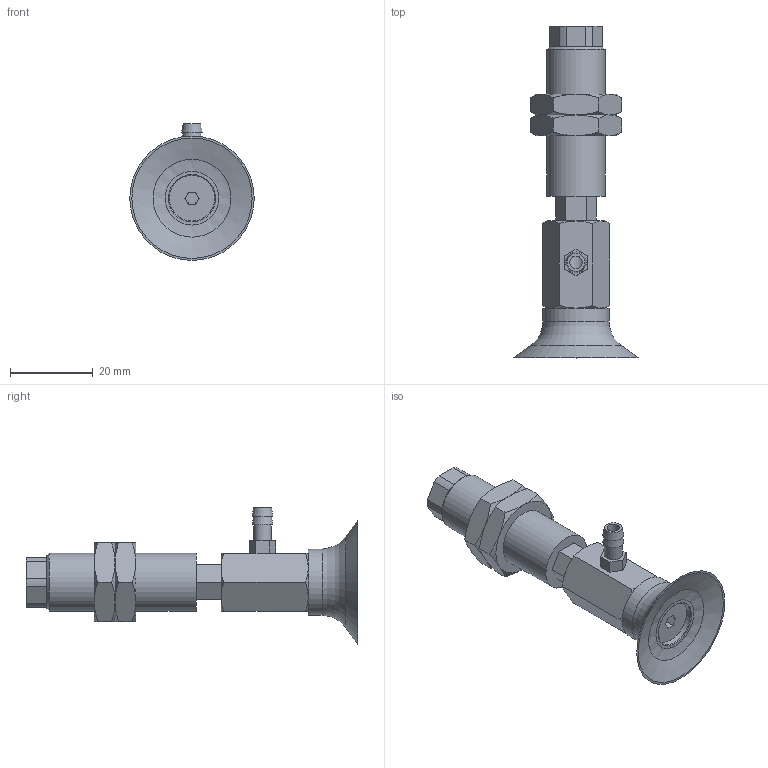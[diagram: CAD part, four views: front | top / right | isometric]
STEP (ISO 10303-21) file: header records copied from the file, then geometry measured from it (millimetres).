
FILE_DESCRIPTION(('STEP AP203'),'1');
FILE_NAME('-T.stp','2025-04-10T07:42:49',(' '),(' '),'Spatial InterOp 3D',' ',' ');
FILE_SCHEMA(('CONFIG_CONTROL_DESIGN'));
Length unit declared in the file: millimetre
Products named in the file (8): BNABPFYH-30-6-※-T; TN-PF-30-M6-NAPF; CONNECTOR-H-30-6; Nut-30-6-h; NAPFTH-30-6-FBODY; NAPFTH-30-6-MBODY; BPFG-30-※; T
Assembly tree (8 placements, depth 2):
  BNABPFYH-30-6-※-T
    TN-PF-30-M6-NAPF
    CONNECTOR-H-30-6
    Nut-30-6-h  x2
    NAPFTH-30-6-FBODY
    NAPFTH-30-6-MBODY
    BPFG-30-※
    T
Bounding box: 30 x 80 x 33 mm (x, y, z)
Volume: 14146 mm3; surface area: 11384.5 mm2
Topology: 8 solids, 8 shells, 173 faces, 369 edges, 226 vertices
Faces by surface type: plane 90, cone 54, cylinder 23, torus 5, bspline 1
Full cylindrical faces by diameter (mm): 3 x3, 4.134 x2, 4.3 x1, 4.917 x1, 5 x2, 6 x2, 11 x2, 12.917 x2, 14 x1, 16 x1
Entity records: 4545 total; most frequent: CARTESIAN_POINT 1057, DIRECTION 644, ORIENTED_EDGE 564, EDGE_CURVE 282, AXIS2_PLACEMENT_3D 255, EDGE_LOOP 214, VERTEX_POINT 196, FACE_OUTER_BOUND 172
